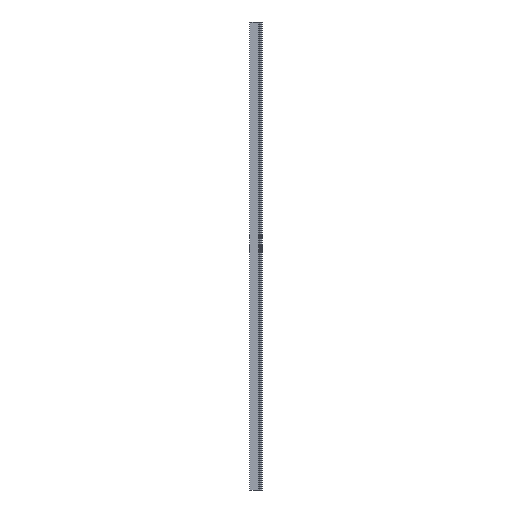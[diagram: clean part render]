
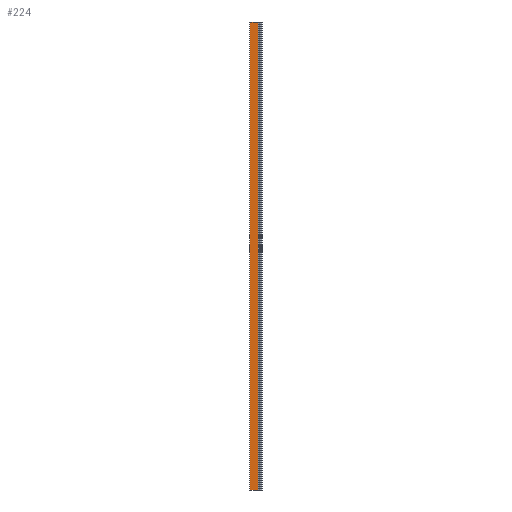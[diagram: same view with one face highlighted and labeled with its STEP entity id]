
A CAD part, left-side view. The second image highlights one B-rep face of the part: STEP entity #224.
In plain terms, the highlighted planar face has unit normal (-1, 0.02, 0).
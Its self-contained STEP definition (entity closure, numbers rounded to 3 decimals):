
#11 = EDGE_LOOP ( 'NONE', ( #486, #487, #488, #459 ) ) ;
#31 = FACE_OUTER_BOUND ( 'NONE', #11, .T. ) ;
#130 = LINE ( 'NONE', #957, #132 ) ;
#131 = LINE ( 'NONE', #965, #139 ) ;
#132 = VECTOR ( 'NONE', #954, 1000. ) ;
#133 = LINE ( 'NONE', #963, #135 ) ;
#134 = LINE ( 'NONE', #969, #137 ) ;
#135 = VECTOR ( 'NONE', #959, 1000. ) ;
#137 = VECTOR ( 'NONE', #971, 1000. ) ;
#139 = VECTOR ( 'NONE', #972, 1000. ) ;
#224 = ADVANCED_FACE ( 'NONE', ( #31 ), #765, .T. ) ;
#275 = AXIS2_PLACEMENT_3D ( 'NONE', #763, #767, #768 ) ;
#459 = ORIENTED_EDGE ( 'NONE', *, *, #569, .T. ) ;
#486 = ORIENTED_EDGE ( 'NONE', *, *, #571, .F. ) ;
#487 = ORIENTED_EDGE ( 'NONE', *, *, #572, .F. ) ;
#488 = ORIENTED_EDGE ( 'NONE', *, *, #573, .T. ) ;
#492 = VERTEX_POINT ( 'NONE', #889 ) ;
#495 = VERTEX_POINT ( 'NONE', #902 ) ;
#497 = VERTEX_POINT ( 'NONE', #903 ) ;
#499 = VERTEX_POINT ( 'NONE', #905 ) ;
#569 = EDGE_CURVE ( 'NONE', #495, #497, #130, .T. ) ;
#571 = EDGE_CURVE ( 'NONE', #499, #497, #133, .T. ) ;
#572 = EDGE_CURVE ( 'NONE', #492, #499, #134, .T. ) ;
#573 = EDGE_CURVE ( 'NONE', #492, #495, #131, .T. ) ;
#763 = CARTESIAN_POINT ( 'NONE',  ( -0.962, 3.961, -1000. ) ) ;
#765 = PLANE ( 'NONE',  #275 ) ;
#767 = DIRECTION ( 'NONE',  ( -1., 0.02, 0. ) ) ;
#768 = DIRECTION ( 'NONE',  ( -0.02, -1., 0. ) ) ;
#889 = CARTESIAN_POINT ( 'NONE',  ( -0.6, 22.412, -1000. ) ) ;
#902 = CARTESIAN_POINT ( 'NONE',  ( -0.962, 3.961, -1000. ) ) ;
#903 = CARTESIAN_POINT ( 'NONE',  ( -0.962, 3.961, 0. ) ) ;
#905 = CARTESIAN_POINT ( 'NONE',  ( -0.6, 22.412, 0. ) ) ;
#954 = DIRECTION ( 'NONE',  ( 0., 0., 1. ) ) ;
#957 = CARTESIAN_POINT ( 'NONE',  ( -0.962, 3.961, -1000. ) ) ;
#959 = DIRECTION ( 'NONE',  ( -0.02, -1., 0. ) ) ;
#963 = CARTESIAN_POINT ( 'NONE',  ( -0.962, 3.961, 0. ) ) ;
#965 = CARTESIAN_POINT ( 'NONE',  ( -0.962, 3.961, -1000. ) ) ;
#969 = CARTESIAN_POINT ( 'NONE',  ( -0.6, 22.412, -1000. ) ) ;
#971 = DIRECTION ( 'NONE',  ( 0., 0., 1. ) ) ;
#972 = DIRECTION ( 'NONE',  ( -0.02, -1., 0. ) ) ;
